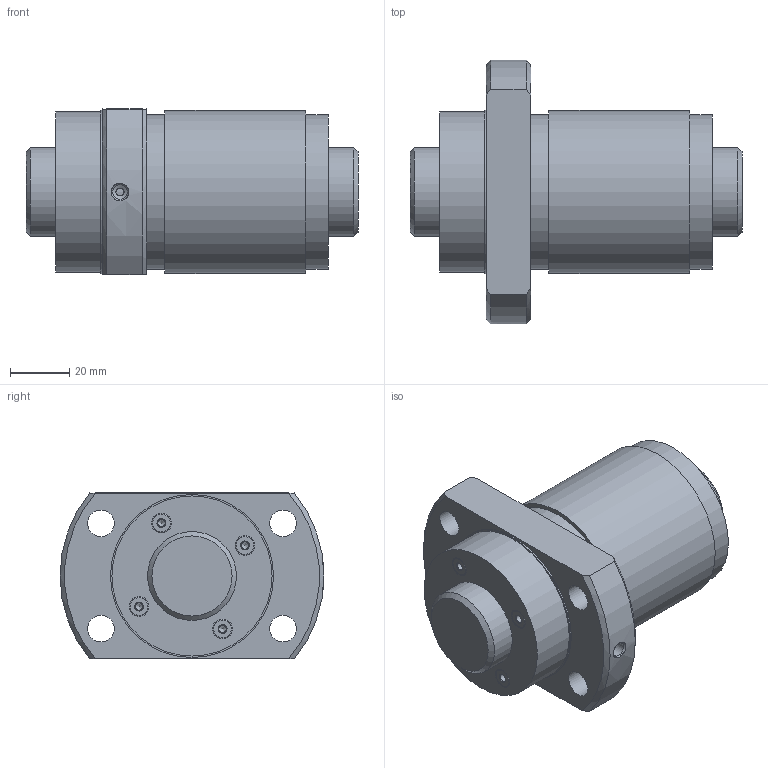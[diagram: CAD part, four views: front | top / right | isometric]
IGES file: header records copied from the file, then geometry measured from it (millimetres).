
Start section: Data from Parasolid IGES Translator 26.0.171, Copyright(c) 2006 Siemens PLM Software. All Rights Reserved.
Global section: file name: WGF3090-1.5G1+112LC3_N0_13_0_0.igs; native system: By Siemens PLM Incorporated; preprocessor: XPlus GENERIC/IGES 26.0.171; author: Noname; organization: Noname; date: 20250116.062651; units: millimetre
Bounding box: 112 x 89 x 56 mm (x, y, z)
Surface area: 48599.3 mm2 (no closed solid volume)
Topology: 0 solids, 0 shells, 65 faces, 262 edges, 208 vertices
Faces by surface type: revolution 46, extrusion 19
